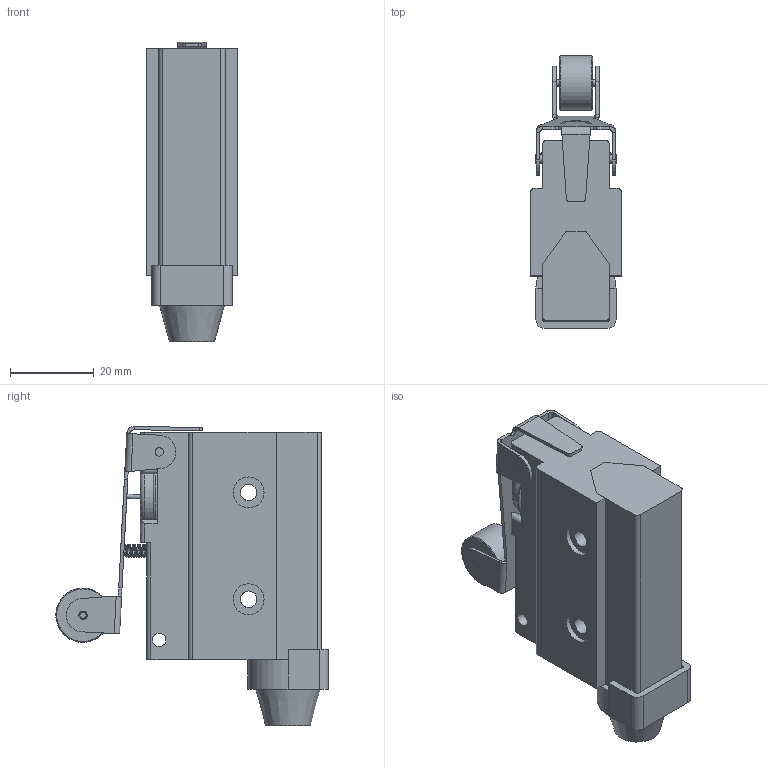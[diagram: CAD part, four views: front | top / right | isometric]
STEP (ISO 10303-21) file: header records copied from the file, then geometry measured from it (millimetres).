
FILE_DESCRIPTION (( 'STEP AP214' ), '1' );
FILE_NAME ('3D 斁麧錪 MTB4-MS7128.STEP', '2020-07-22T14:10:59', ( '' ), ( '' ), 'SwSTEP 2.0', 'SolidWorks 2015', '' );
FILE_SCHEMA (( 'AUTOMOTIVE_DESIGN' ));
Length unit declared in the file: millimetre
Products named in the file (8): ñêîáà êîíöåâèêà MS7128_00; Øàéáà_ïîäêëàäî÷íàÿ_00; 膰薧槻鴀 MTB4-MS7128; 3D 斁麧錪 MTB4-MS7128; 鎗鵻罻_19,2_00; 扻錼鼨膰_膰薧槻鴀趌00; 瀔鵵鴈趌00; 鎗鵻罻_11,2_00
Assembly tree (7 placements, depth 2):
  3D 斁麧錪 MTB4-MS7128
    膰薧槻鴀 MTB4-MS7128
    Øàéáà_ïîäêëàäî÷íàÿ_00
    ñêîáà êîíöåâèêà MS7128_00
    扻錼鼨膰_膰薧槻鴀趌00
    鎗鵻罻_19,2_00
    鎗鵻罻_11,2_00
    瀔鵵鴈趌00
Bounding box: 21.71 x 65.22 x 71.67 mm (x, y, z)
Volume: 47872.5 mm3; surface area: 17958.1 mm2
Topology: 9 solids, 9 shells, 479 faces, 1245 edges, 822 vertices
Faces by surface type: plane 308, bspline 83, cylinder 82, cone 3, torus 3
Full cylindrical faces by diameter (mm): 0.8 x1, 1 x1, 1.5 x3, 2 x7, 2.5 x1, 3.2 x2, 4 x6, 7.4 x4, 13 x1, 15 x1
Entity records: 24207 total; most frequent: CARTESIAN_POINT 8683, ORIENTED_EDGE 2402, DIRECTION 1977, EDGE_CURVE 1201, LINE 851, VECTOR 851, VERTEX_POINT 812, EDGE_LOOP 581
